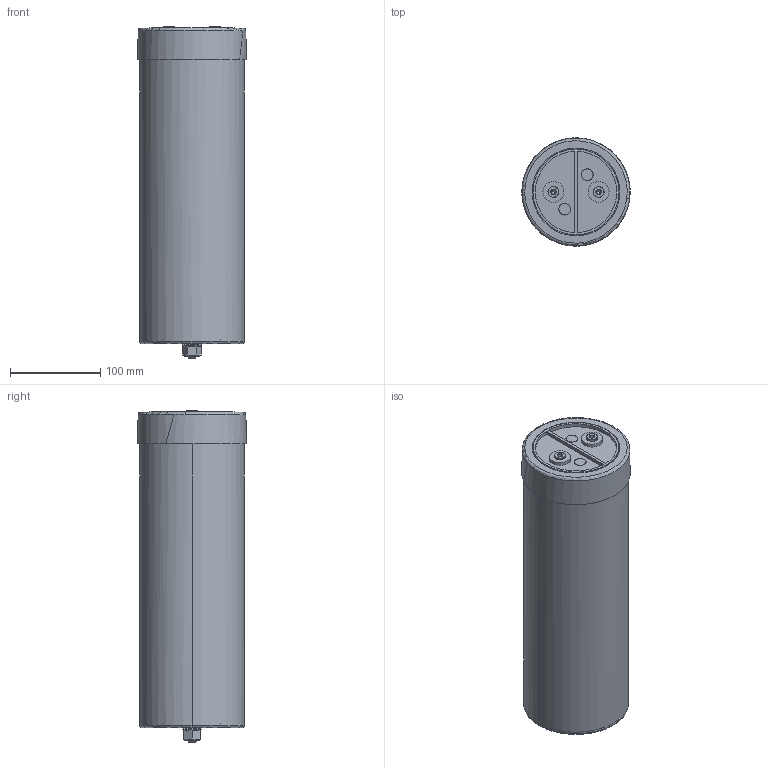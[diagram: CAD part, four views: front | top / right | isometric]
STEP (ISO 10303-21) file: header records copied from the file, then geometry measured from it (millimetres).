
FILE_DESCRIPTION (( 'STEP AP203' ), '1' );
FILE_NAME ('B25620Cx_116x345_351.STEP', '2021-07-01T07:51:42', ( '' ), ( '' ), 'SwSTEP 2.0', 'SolidWorks 2017', '' );
FILE_SCHEMA (( 'CONFIG_CONTROL_DESIGN' ));
Length unit declared in the file: millimetre
Products named in the file (1): B25620Cx_116x345_351
Bounding box: 119.98 x 119.98 x 367 mm (x, y, z)
Volume: 192156 mm3; surface area: 321816.5 mm2
Topology: 2 solids, 17 shells, 307 faces, 674 edges, 428 vertices
Faces by surface type: plane 119, cylinder 90, bspline 52, cone 24, torus 22
Entity records: 9523 total; most frequent: CARTESIAN_POINT 2838, DIRECTION 1346, ORIENTED_EDGE 1340, EDGE_CURVE 670, AXIS2_PLACEMENT_3D 518, VERTEX_POINT 428, EDGE_LOOP 344, LINE 310
